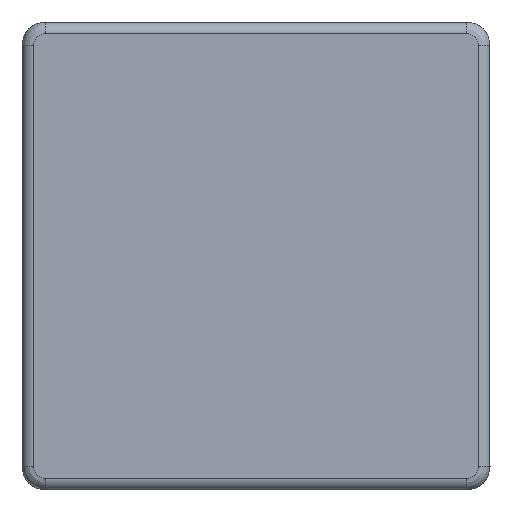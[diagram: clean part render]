
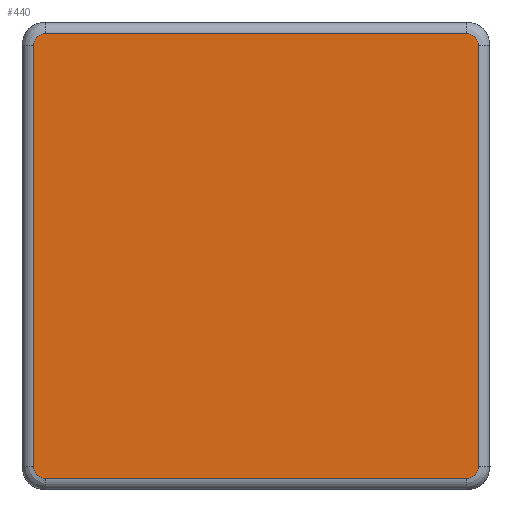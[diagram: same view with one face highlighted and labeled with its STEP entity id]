
A CAD part, left-side view. The second image highlights one B-rep face of the part: STEP entity #440.
In plain terms, the highlighted planar face has unit normal (-1, 0, 0).
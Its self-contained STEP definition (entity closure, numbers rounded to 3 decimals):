
#35=PLANE('',#505);
#55=FACE_OUTER_BOUND('',#87,.T.);
#87=EDGE_LOOP('',(#350,#351,#352,#353,#354,#355,#356,#357));
#108=LINE('',#726,#135);
#110=LINE('',#746,#137);
#112=LINE('',#766,#139);
#113=LINE('',#782,#140);
#135=VECTOR('',#570,10.);
#137=VECTOR('',#582,10.);
#139=VECTOR('',#594,10.);
#140=VECTOR('',#603,10.);
#165=CIRCLE('',#480,0.5);
#171=CIRCLE('',#487,0.5);
#175=CIRCLE('',#492,0.5);
#179=CIRCLE('',#497,0.5);
#199=VERTEX_POINT('',#714);
#200=VERTEX_POINT('',#716);
#202=VERTEX_POINT('',#722);
#204=VERTEX_POINT('',#736);
#206=VERTEX_POINT('',#742);
#208=VERTEX_POINT('',#756);
#210=VERTEX_POINT('',#762);
#212=VERTEX_POINT('',#776);
#236=EDGE_CURVE('',#199,#200,#165,.T.);
#241=EDGE_CURVE('',#200,#202,#108,.T.);
#244=EDGE_CURVE('',#202,#204,#171,.T.);
#247=EDGE_CURVE('',#204,#206,#110,.T.);
#250=EDGE_CURVE('',#206,#208,#175,.T.);
#253=EDGE_CURVE('',#208,#210,#112,.T.);
#256=EDGE_CURVE('',#210,#212,#179,.T.);
#257=EDGE_CURVE('',#212,#199,#113,.T.);
#350=ORIENTED_EDGE('',*,*,#236,.F.);
#351=ORIENTED_EDGE('',*,*,#257,.F.);
#352=ORIENTED_EDGE('',*,*,#256,.F.);
#353=ORIENTED_EDGE('',*,*,#253,.F.);
#354=ORIENTED_EDGE('',*,*,#250,.F.);
#355=ORIENTED_EDGE('',*,*,#247,.F.);
#356=ORIENTED_EDGE('',*,*,#244,.F.);
#357=ORIENTED_EDGE('',*,*,#241,.F.);
#440=ADVANCED_FACE('',(#55),#35,.F.);
#480=AXIS2_PLACEMENT_3D('',#717,#559,#560);
#487=AXIS2_PLACEMENT_3D('',#740,#575,#576);
#492=AXIS2_PLACEMENT_3D('',#760,#587,#588);
#497=AXIS2_PLACEMENT_3D('',#780,#599,#600);
#505=AXIS2_PLACEMENT_3D('',#802,#624,#625);
#559=DIRECTION('center_axis',(1.,0.,0.));
#560=DIRECTION('ref_axis',(0.,0.707,-0.707));
#570=DIRECTION('',(0.,0.,1.));
#575=DIRECTION('center_axis',(1.,0.,0.));
#576=DIRECTION('ref_axis',(0.,0.707,0.707));
#582=DIRECTION('',(0.,-1.,0.));
#587=DIRECTION('center_axis',(1.,0.,0.));
#588=DIRECTION('ref_axis',(0.,-0.707,0.707));
#594=DIRECTION('',(0.,0.,-1.));
#599=DIRECTION('center_axis',(1.,0.,0.));
#600=DIRECTION('ref_axis',(0.,-0.707,-0.707));
#603=DIRECTION('',(0.,1.,0.));
#624=DIRECTION('center_axis',(1.,0.,0.));
#625=DIRECTION('ref_axis',(0.,1.,0.));
#714=CARTESIAN_POINT('',(0.,9.,-9.5));
#716=CARTESIAN_POINT('',(0.,9.5,-9.));
#717=CARTESIAN_POINT('Origin',(0.,9.,-9.));
#722=CARTESIAN_POINT('',(0.,9.5,9.));
#726=CARTESIAN_POINT('',(0.,9.5,-5.));
#736=CARTESIAN_POINT('',(0.,9.,9.5));
#740=CARTESIAN_POINT('Origin',(0.,9.,9.));
#742=CARTESIAN_POINT('',(0.,-9.,9.5));
#746=CARTESIAN_POINT('',(0.,5.,9.5));
#756=CARTESIAN_POINT('',(0.,-9.5,9.));
#760=CARTESIAN_POINT('Origin',(0.,-9.,9.));
#762=CARTESIAN_POINT('',(0.,-9.5,-9.));
#766=CARTESIAN_POINT('',(0.,-9.5,5.));
#776=CARTESIAN_POINT('',(0.,-9.,-9.5));
#780=CARTESIAN_POINT('Origin',(0.,-9.,-9.));
#782=CARTESIAN_POINT('',(0.,-5.,-9.5));
#802=CARTESIAN_POINT('Origin',(0.,0.,0.));
